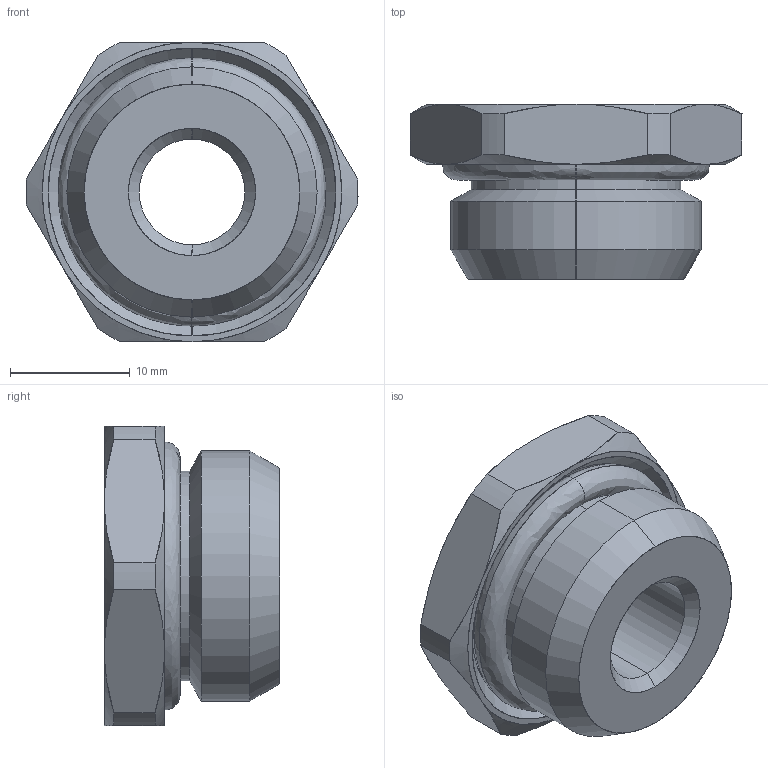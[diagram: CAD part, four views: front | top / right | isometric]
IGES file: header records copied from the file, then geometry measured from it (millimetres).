
Start section: SolidWorks IGES file using analytic representation for surfaces
Global section: file name: C:\Users\cad06\Desktop\Nuova cartella\0209200009.IGS; native system: SolidWorks 2016; preprocessor: SolidWorks 2016; author: cad06; date: 160523.172802; units: millimetre
Bounding box: 27.69 x 14.6 x 25 mm (x, y, z)
Surface area: 2959.9 mm2 (no closed solid volume)
Topology: 0 solids, 0 shells, 50 faces, 604 edges, 604 vertices
Faces by surface type: revolution 34, bspline 16
